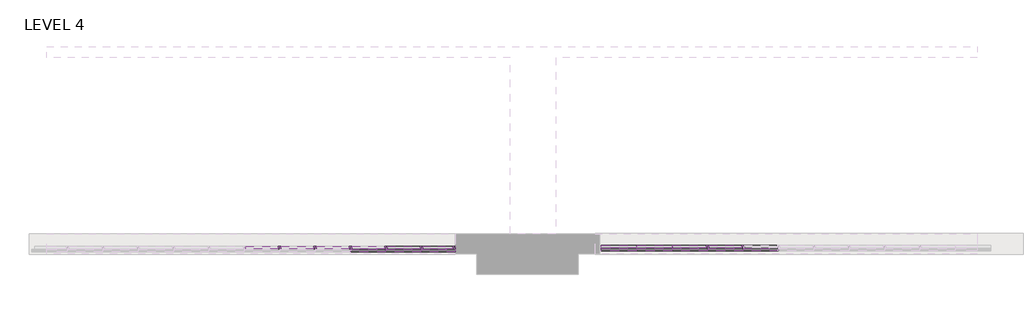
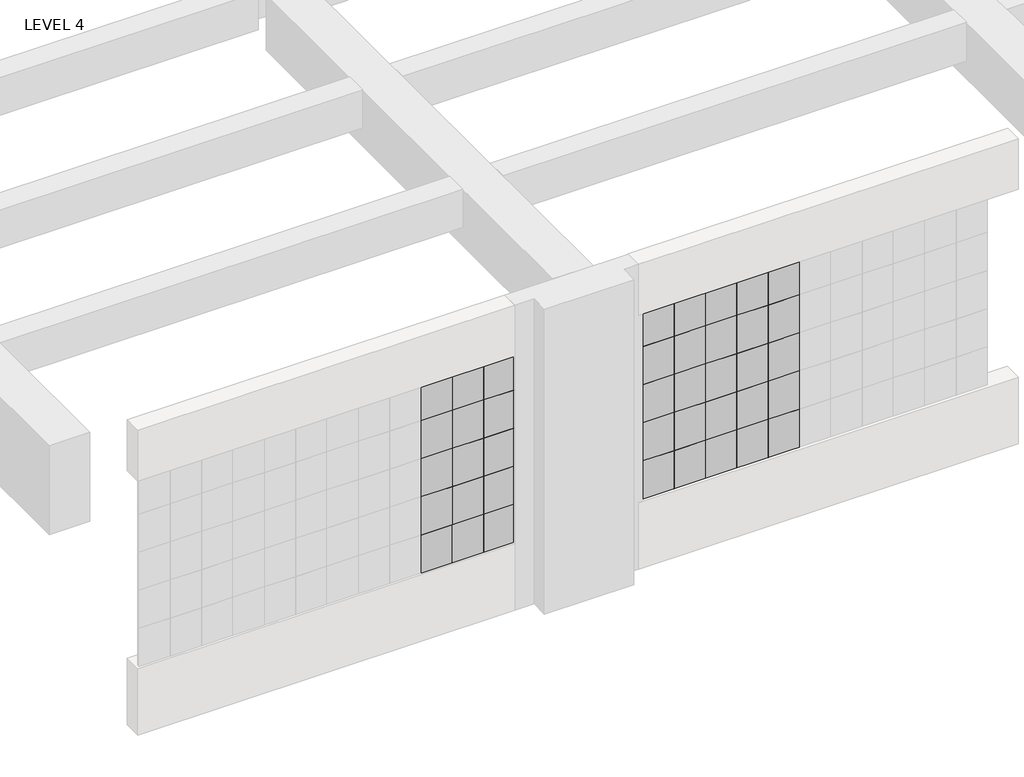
# One storey, part 3 of 26: 89 members, 40 plates.
"""IFC4 building model written with IfcOpenShell, lengths in millimetres."""

from ifc_helpers import new_model, si_unit, origin, place, context, project, spatial, transform, mapped, element, save
from components import member_038dcf1c, member_0e6c94ff, member_d9fec558, member_3d4b608b, member_3c10d71f, member_653bb31e, member_8861c038, member_2db4d105, member_643a3807, member_ec43e15b, member_0f6da5c5, member_6c57b699, member_8c9cbbb4, member_f92ba716, system_panel_glazed_ab35d819, system_panel_glazed_1edc1c27, system_panel_glazed_418eb6cd, system_panel_glazed_5e6f1a99

model = new_model("IFC4")

# Units and contexts
model_context = context("Model", 3, world=origin())
ifc_project = project(units=[si_unit("LENGTHUNIT", "METRE", prefix="MILLI")], contexts=[model_context])

# Site, building, storey
site = spatial("IfcSite", under=ifc_project)
building = spatial("IfcBuilding", under=site)
storey = spatial("IfcBuildingStorey", under=building, Name="LEVEL 4", Elevation=0.0)

# Members
placement = place(None, origin())
member_shape = member_038dcf1c(model_context)
element("IfcMember", 1, ObjectType="Circular Mullion : 1 1/4\" Square", at=placement, inside=storey, context=model_context, shape_type="MappedRepresentation", body=[
    mapped(member_shape, transform((-38095.2585473, 87287.1352667, 2171.7), x_axis=(1.0, 0.0, 0.0), y_axis=(0.0, -1.0, 0.0), z_axis=(0.0, 0.0, -1.0))),
])
element("IfcMember", 2, ObjectType="Circular Mullion : 1 1/4\" Square", at=placement, inside=storey, context=model_context, shape_type="MappedRepresentation", body=[
    mapped(member_shape, transform((-38095.2585473, 87287.1352667, 1714.5), x_axis=(1.0, 0.0, 0.0), y_axis=(0.0, -1.0, 0.0), z_axis=(0.0, 0.0, -1.0))),
])
element("IfcMember", 3, ObjectType="Circular Mullion : 1 1/4\" Square", at=placement, inside=storey, context=model_context, shape_type="MappedRepresentation", body=[
    mapped(member_shape, transform((-38095.2585473, 87287.1352667, 1257.3), x_axis=(1.0, 0.0, 0.0), y_axis=(0.0, -1.0, 0.0), z_axis=(0.0, 0.0, -1.0))),
])
element("IfcMember", 4, ObjectType="Circular Mullion : 1 1/4\" Square", at=placement, inside=storey, context=model_context, shape_type="MappedRepresentation", body=[
    mapped(member_shape, transform((-38095.2585473, 87287.1352667, 800.1), x_axis=(1.0, 0.0, 0.0), y_axis=(0.0, -1.0, 0.0), z_axis=(0.0, 0.0, -1.0))),
])
member_2_shape = member_0e6c94ff(model_context)
element("IfcMember", 5, ObjectType="Circular Mullion : 1 1/4\" Square", at=placement, inside=storey, context=model_context, shape_type="MappedRepresentation", body=[
    mapped(member_2_shape, transform((-38095.2585473, 87287.1352667, 2628.9), x_axis=(1.0, 0.0, 0.0), y_axis=(0.0, -1.0, 0.0), z_axis=(0.0, 0.0, -1.0))),
])
member_3_shape = member_d9fec558(model_context)
element("IfcMember", 6, ObjectType="Circular Mullion : 1 1/4\" Square", at=placement, inside=storey, context=model_context, shape_type="MappedRepresentation", body=[
    mapped(member_3_shape, transform((-39146.970947, 87287.1352667, 2628.9), x_axis=(1.0, 0.0, 0.0), y_axis=(0.0, -1.0, 0.0), z_axis=(0.0, 0.0, -1.0))),
])
element("IfcMember", 7, ObjectType="Circular Mullion : 1 1/4\" Square", at=placement, inside=storey, context=model_context, shape_type="MappedRepresentation", body=[
    mapped(member_3_shape, transform((-39502.570947, 87287.1352667, 2628.9), x_axis=(1.0, 0.0, 0.0), y_axis=(0.0, -1.0, 0.0), z_axis=(0.0, 0.0, -1.0))),
])
element("IfcMember", 8, ObjectType="Circular Mullion : 1 1/4\" Square", at=placement, inside=storey, context=model_context, shape_type="MappedRepresentation", body=[
    mapped(member_3_shape, transform((-39858.170947, 87287.1352667, 2628.9), x_axis=(1.0, 0.0, 0.0), y_axis=(0.0, -1.0, 0.0), z_axis=(0.0, 0.0, -1.0))),
])
element("IfcMember", 9, ObjectType="Circular Mullion : 1 1/4\" Square", at=placement, inside=storey, context=model_context, shape_type="MappedRepresentation", body=[
    mapped(member_3_shape, transform((-38435.770947, 87287.1352667, 2628.9), x_axis=(1.0, 0.0, 0.0), y_axis=(0.0, -1.0, 0.0), z_axis=(0.0, 0.0, -1.0))),
])
element("IfcMember", 10, ObjectType="Circular Mullion : 1 1/4\" Square", at=placement, inside=storey, context=model_context, shape_type="MappedRepresentation", body=[
    mapped(member_3_shape, transform((-38791.370947, 87287.1352667, 2628.9), x_axis=(1.0, 0.0, 0.0), y_axis=(0.0, -1.0, 0.0), z_axis=(0.0, 0.0, -1.0))),
])
member_4_shape = member_3d4b608b(model_context)
element("IfcMember", 11, ObjectType="Circular Mullion : 1 1/4\" Square", at=placement, inside=storey, context=model_context, shape_type="MappedRepresentation", body=[
    mapped(member_4_shape, transform((-39146.970947, 87287.1352667, 2171.7), x_axis=(1.0, 0.0, 0.0), y_axis=(0.0, -1.0, 0.0), z_axis=(0.0, 0.0, -1.0))),
])
element("IfcMember", 12, ObjectType="Circular Mullion : 1 1/4\" Square", at=placement, inside=storey, context=model_context, shape_type="MappedRepresentation", body=[
    mapped(member_4_shape, transform((-39146.970947, 87287.1352667, 1714.5), x_axis=(1.0, 0.0, 0.0), y_axis=(0.0, -1.0, 0.0), z_axis=(0.0, 0.0, -1.0))),
])
element("IfcMember", 13, ObjectType="Circular Mullion : 1 1/4\" Square", at=placement, inside=storey, context=model_context, shape_type="MappedRepresentation", body=[
    mapped(member_4_shape, transform((-39146.970947, 87287.1352667, 1257.3), x_axis=(1.0, 0.0, 0.0), y_axis=(0.0, -1.0, 0.0), z_axis=(0.0, 0.0, -1.0))),
])
element("IfcMember", 14, ObjectType="Circular Mullion : 1 1/4\" Square", at=placement, inside=storey, context=model_context, shape_type="MappedRepresentation", body=[
    mapped(member_4_shape, transform((-39502.570947, 87287.1352667, 2171.7), x_axis=(1.0, 0.0, 0.0), y_axis=(0.0, -1.0, 0.0), z_axis=(0.0, 0.0, -1.0))),
])
element("IfcMember", 15, ObjectType="Circular Mullion : 1 1/4\" Square", at=placement, inside=storey, context=model_context, shape_type="MappedRepresentation", body=[
    mapped(member_4_shape, transform((-39502.570947, 87287.1352667, 1714.5), x_axis=(1.0, 0.0, 0.0), y_axis=(0.0, -1.0, 0.0), z_axis=(0.0, 0.0, -1.0))),
])
element("IfcMember", 16, ObjectType="Circular Mullion : 1 1/4\" Square", at=placement, inside=storey, context=model_context, shape_type="MappedRepresentation", body=[
    mapped(member_4_shape, transform((-39502.570947, 87287.1352667, 1257.3), x_axis=(1.0, 0.0, 0.0), y_axis=(0.0, -1.0, 0.0), z_axis=(0.0, 0.0, -1.0))),
])
element("IfcMember", 17, ObjectType="Circular Mullion : 1 1/4\" Square", at=placement, inside=storey, context=model_context, shape_type="MappedRepresentation", body=[
    mapped(member_4_shape, transform((-39858.170947, 87287.1352667, 2171.7), x_axis=(1.0, 0.0, 0.0), y_axis=(0.0, -1.0, 0.0), z_axis=(0.0, 0.0, -1.0))),
])
element("IfcMember", 18, ObjectType="Circular Mullion : 1 1/4\" Square", at=placement, inside=storey, context=model_context, shape_type="MappedRepresentation", body=[
    mapped(member_4_shape, transform((-39858.170947, 87287.1352667, 1714.5), x_axis=(1.0, 0.0, 0.0), y_axis=(0.0, -1.0, 0.0), z_axis=(0.0, 0.0, -1.0))),
])
element("IfcMember", 19, ObjectType="Circular Mullion : 1 1/4\" Square", at=placement, inside=storey, context=model_context, shape_type="MappedRepresentation", body=[
    mapped(member_4_shape, transform((-39858.170947, 87287.1352667, 1257.3), x_axis=(1.0, 0.0, 0.0), y_axis=(0.0, -1.0, 0.0), z_axis=(0.0, 0.0, -1.0))),
])
element("IfcMember", 20, ObjectType="Circular Mullion : 1 1/4\" Square", at=placement, inside=storey, context=model_context, shape_type="MappedRepresentation", body=[
    mapped(member_4_shape, transform((-38435.770947, 87287.1352667, 2171.7), x_axis=(1.0, 0.0, 0.0), y_axis=(0.0, -1.0, 0.0), z_axis=(0.0, 0.0, -1.0))),
])
element("IfcMember", 21, ObjectType="Circular Mullion : 1 1/4\" Square", at=placement, inside=storey, context=model_context, shape_type="MappedRepresentation", body=[
    mapped(member_4_shape, transform((-38435.770947, 87287.1352667, 1714.5), x_axis=(1.0, 0.0, 0.0), y_axis=(0.0, -1.0, 0.0), z_axis=(0.0, 0.0, -1.0))),
])
element("IfcMember", 22, ObjectType="Circular Mullion : 1 1/4\" Square", at=placement, inside=storey, context=model_context, shape_type="MappedRepresentation", body=[
    mapped(member_4_shape, transform((-38435.770947, 87287.1352667, 1257.3), x_axis=(1.0, 0.0, 0.0), y_axis=(0.0, -1.0, 0.0), z_axis=(0.0, 0.0, -1.0))),
])
element("IfcMember", 23, ObjectType="Circular Mullion : 1 1/4\" Square", at=placement, inside=storey, context=model_context, shape_type="MappedRepresentation", body=[
    mapped(member_4_shape, transform((-38791.370947, 87287.1352667, 2171.7), x_axis=(1.0, 0.0, 0.0), y_axis=(0.0, -1.0, 0.0), z_axis=(0.0, 0.0, -1.0))),
])
element("IfcMember", 24, ObjectType="Circular Mullion : 1 1/4\" Square", at=placement, inside=storey, context=model_context, shape_type="MappedRepresentation", body=[
    mapped(member_4_shape, transform((-38791.370947, 87287.1352667, 1714.5), x_axis=(1.0, 0.0, 0.0), y_axis=(0.0, -1.0, 0.0), z_axis=(0.0, 0.0, -1.0))),
])
element("IfcMember", 25, ObjectType="Circular Mullion : 1 1/4\" Square", at=placement, inside=storey, context=model_context, shape_type="MappedRepresentation", body=[
    mapped(member_4_shape, transform((-38791.370947, 87287.1352667, 1257.3), x_axis=(1.0, 0.0, 0.0), y_axis=(0.0, -1.0, 0.0), z_axis=(0.0, 0.0, -1.0))),
])
element("IfcMember", 26, ObjectType="Circular Mullion : 1 1/4\" Square", at=placement, inside=storey, context=model_context, shape_type="MappedRepresentation", body=[
    mapped(member_4_shape, transform((-35203.620947, 87297.4286167, 2171.7), x_axis=(1.0, 0.0, 0.0), y_axis=(0.0, -1.0, 0.0), z_axis=(0.0, 0.0, -1.0))),
])
element("IfcMember", 27, ObjectType="Circular Mullion : 1 1/4\" Square", at=placement, inside=storey, context=model_context, shape_type="MappedRepresentation", body=[
    mapped(member_4_shape, transform((-35203.620947, 87297.4286167, 1714.5), x_axis=(1.0, 0.0, 0.0), y_axis=(0.0, -1.0, 0.0), z_axis=(0.0, 0.0, -1.0))),
])
element("IfcMember", 28, ObjectType="Circular Mullion : 1 1/4\" Square", at=placement, inside=storey, context=model_context, shape_type="MappedRepresentation", body=[
    mapped(member_4_shape, transform((-35203.620947, 87297.4286167, 1257.3), x_axis=(1.0, 0.0, 0.0), y_axis=(0.0, -1.0, 0.0), z_axis=(0.0, 0.0, -1.0))),
])
element("IfcMember", 29, ObjectType="Circular Mullion : 1 1/4\" Square", at=placement, inside=storey, context=model_context, shape_type="MappedRepresentation", body=[
    mapped(member_4_shape, transform((-35559.220947, 87297.4286167, 2171.7), x_axis=(1.0, 0.0, 0.0), y_axis=(0.0, -1.0, 0.0), z_axis=(0.0, 0.0, -1.0))),
])
element("IfcMember", 30, ObjectType="Circular Mullion : 1 1/4\" Square", at=placement, inside=storey, context=model_context, shape_type="MappedRepresentation", body=[
    mapped(member_4_shape, transform((-35559.220947, 87297.4286167, 1714.5), x_axis=(1.0, 0.0, 0.0), y_axis=(0.0, -1.0, 0.0), z_axis=(0.0, 0.0, -1.0))),
])
element("IfcMember", 31, ObjectType="Circular Mullion : 1 1/4\" Square", at=placement, inside=storey, context=model_context, shape_type="MappedRepresentation", body=[
    mapped(member_4_shape, transform((-35559.220947, 87297.4286167, 1257.3), x_axis=(1.0, 0.0, 0.0), y_axis=(0.0, -1.0, 0.0), z_axis=(0.0, 0.0, -1.0))),
])
element("IfcMember", 32, ObjectType="Circular Mullion : 1 1/4\" Square", at=placement, inside=storey, context=model_context, shape_type="MappedRepresentation", body=[
    mapped(member_4_shape, transform((-39146.970947, 87287.1352667, 800.1), x_axis=(1.0, 0.0, 0.0), y_axis=(0.0, -1.0, 0.0), z_axis=(0.0, 0.0, -1.0))),
])
element("IfcMember", 33, ObjectType="Circular Mullion : 1 1/4\" Square", at=placement, inside=storey, context=model_context, shape_type="MappedRepresentation", body=[
    mapped(member_4_shape, transform((-39502.570947, 87287.1352667, 800.1), x_axis=(1.0, 0.0, 0.0), y_axis=(0.0, -1.0, 0.0), z_axis=(0.0, 0.0, -1.0))),
])
element("IfcMember", 34, ObjectType="Circular Mullion : 1 1/4\" Square", at=placement, inside=storey, context=model_context, shape_type="MappedRepresentation", body=[
    mapped(member_4_shape, transform((-39858.170947, 87287.1352667, 800.1), x_axis=(1.0, 0.0, 0.0), y_axis=(0.0, -1.0, 0.0), z_axis=(0.0, 0.0, -1.0))),
])
element("IfcMember", 35, ObjectType="Circular Mullion : 1 1/4\" Square", at=placement, inside=storey, context=model_context, shape_type="MappedRepresentation", body=[
    mapped(member_4_shape, transform((-38435.770947, 87287.1352667, 800.1), x_axis=(1.0, 0.0, 0.0), y_axis=(0.0, -1.0, 0.0), z_axis=(0.0, 0.0, -1.0))),
])
element("IfcMember", 36, ObjectType="Circular Mullion : 1 1/4\" Square", at=placement, inside=storey, context=model_context, shape_type="MappedRepresentation", body=[
    mapped(member_4_shape, transform((-38791.370947, 87287.1352667, 800.1), x_axis=(1.0, 0.0, 0.0), y_axis=(0.0, -1.0, 0.0), z_axis=(0.0, 0.0, -1.0))),
])
element("IfcMember", 37, ObjectType="Circular Mullion : 1 1/4\" Square", at=placement, inside=storey, context=model_context, shape_type="MappedRepresentation", body=[
    mapped(member_4_shape, transform((-35203.620947, 87297.4286167, 800.1), x_axis=(1.0, 0.0, 0.0), y_axis=(0.0, -1.0, 0.0), z_axis=(0.0, 0.0, -1.0))),
])
element("IfcMember", 38, ObjectType="Circular Mullion : 1 1/4\" Square", at=placement, inside=storey, context=model_context, shape_type="MappedRepresentation", body=[
    mapped(member_4_shape, transform((-35559.220947, 87297.4286167, 800.1), x_axis=(1.0, 0.0, 0.0), y_axis=(0.0, -1.0, 0.0), z_axis=(0.0, 0.0, -1.0))),
])
member_5_shape = member_3c10d71f(model_context)
element("IfcMember", 39, ObjectType="Circular Mullion : 1 1/4\" Square", at=placement, inside=storey, context=model_context, shape_type="MappedRepresentation", body=[
    mapped(member_5_shape, transform((-38448.470947, 87287.1352667, 3060.7), x_axis=(0.0, 0.0, 1.0), y_axis=(0.0, -1.0, 0.0), z_axis=(1.0, 0.0, 0.0))),
])
element("IfcMember", 40, ObjectType="Circular Mullion : 1 1/4\" Square", at=placement, inside=storey, context=model_context, shape_type="MappedRepresentation", body=[
    mapped(member_5_shape, transform((-38804.070947, 87287.1352667, 3060.7), x_axis=(0.0, 0.0, 1.0), y_axis=(0.0, -1.0, 0.0), z_axis=(1.0, 0.0, 0.0))),
])
element("IfcMember", 41, ObjectType="Circular Mullion : 1 1/4\" Square", at=placement, inside=storey, context=model_context, shape_type="MappedRepresentation", body=[
    mapped(member_5_shape, transform((-38778.670947, 87287.1352667, 800.1), x_axis=(0.0, 0.0, -1.0), y_axis=(0.0, -1.0, 0.0), z_axis=(-1.0, 0.0, 0.0))),
])
element("IfcMember", 42, ObjectType="Circular Mullion : 1 1/4\" Square", at=placement, inside=storey, context=model_context, shape_type="MappedRepresentation", body=[
    mapped(member_5_shape, transform((-35546.520947, 87297.4286167, 800.1), x_axis=(0.0, 0.0, -1.0), y_axis=(0.0, -1.0, 0.0), z_axis=(-1.0, 0.0, 0.0))),
])
element("IfcMember", 43, ObjectType="Circular Mullion : 1 1/4\" Square", at=placement, inside=storey, context=model_context, shape_type="MappedRepresentation", body=[
    mapped(member_5_shape, transform((-35190.920947, 87297.4286167, 800.1), x_axis=(0.0, 0.0, -1.0), y_axis=(0.0, -1.0, 0.0), z_axis=(-1.0, 0.0, 0.0))),
])
member_6_shape = member_653bb31e(model_context)
element("IfcMember", 44, ObjectType="Circular Mullion : 1 1/4\" Square", at=placement, inside=storey, context=model_context, shape_type="MappedRepresentation", body=[
    mapped(member_6_shape, transform((-39515.270947, 87287.1352667, 2171.7), x_axis=(0.0, 0.0, 1.0), y_axis=(0.0, -1.0, 0.0), z_axis=(1.0, 0.0, 0.0))),
])
element("IfcMember", 45, ObjectType="Circular Mullion : 1 1/4\" Square", at=placement, inside=storey, context=model_context, shape_type="MappedRepresentation", body=[
    mapped(member_6_shape, transform((-39159.670947, 87287.1352667, 2171.7), x_axis=(0.0, 0.0, 1.0), y_axis=(0.0, -1.0, 0.0), z_axis=(1.0, 0.0, 0.0))),
])
element("IfcMember", 46, ObjectType="Circular Mullion : 1 1/4\" Square", at=placement, inside=storey, context=model_context, shape_type="MappedRepresentation", body=[
    mapped(member_6_shape, transform((-38804.070947, 87287.1352667, 2171.7), x_axis=(0.0, 0.0, 1.0), y_axis=(0.0, -1.0, 0.0), z_axis=(1.0, 0.0, 0.0))),
])
element("IfcMember", 47, ObjectType="Circular Mullion : 1 1/4\" Square", at=placement, inside=storey, context=model_context, shape_type="MappedRepresentation", body=[
    mapped(member_6_shape, transform((-38448.470947, 87287.1352667, 2171.7), x_axis=(0.0, 0.0, 1.0), y_axis=(0.0, -1.0, 0.0), z_axis=(1.0, 0.0, 0.0))),
])
element("IfcMember", 48, ObjectType="Circular Mullion : 1 1/4\" Square", at=placement, inside=storey, context=model_context, shape_type="MappedRepresentation", body=[
    mapped(member_6_shape, transform((-39870.870947, 87287.1352667, 1714.5), x_axis=(0.0, 0.0, 1.0), y_axis=(0.0, -1.0, 0.0), z_axis=(1.0, 0.0, 0.0))),
])
element("IfcMember", 49, ObjectType="Circular Mullion : 1 1/4\" Square", at=placement, inside=storey, context=model_context, shape_type="MappedRepresentation", body=[
    mapped(member_6_shape, transform((-39515.270947, 87287.1352667, 1714.5), x_axis=(0.0, 0.0, 1.0), y_axis=(0.0, -1.0, 0.0), z_axis=(1.0, 0.0, 0.0))),
])
element("IfcMember", 50, ObjectType="Circular Mullion : 1 1/4\" Square", at=placement, inside=storey, context=model_context, shape_type="MappedRepresentation", body=[
    mapped(member_6_shape, transform((-39159.670947, 87287.1352667, 1714.5), x_axis=(0.0, 0.0, 1.0), y_axis=(0.0, -1.0, 0.0), z_axis=(1.0, 0.0, 0.0))),
])
element("IfcMember", 51, ObjectType="Circular Mullion : 1 1/4\" Square", at=placement, inside=storey, context=model_context, shape_type="MappedRepresentation", body=[
    mapped(member_6_shape, transform((-38804.070947, 87287.1352667, 1714.5), x_axis=(0.0, 0.0, 1.0), y_axis=(0.0, -1.0, 0.0), z_axis=(1.0, 0.0, 0.0))),
])
element("IfcMember", 52, ObjectType="Circular Mullion : 1 1/4\" Square", at=placement, inside=storey, context=model_context, shape_type="MappedRepresentation", body=[
    mapped(member_6_shape, transform((-38448.470947, 87287.1352667, 1714.5), x_axis=(0.0, 0.0, 1.0), y_axis=(0.0, -1.0, 0.0), z_axis=(1.0, 0.0, 0.0))),
])
element("IfcMember", 53, ObjectType="Circular Mullion : 1 1/4\" Square", at=placement, inside=storey, context=model_context, shape_type="MappedRepresentation", body=[
    mapped(member_6_shape, transform((-39870.870947, 87287.1352667, 1257.3), x_axis=(0.0, 0.0, 1.0), y_axis=(0.0, -1.0, 0.0), z_axis=(1.0, 0.0, 0.0))),
])
element("IfcMember", 54, ObjectType="Circular Mullion : 1 1/4\" Square", at=placement, inside=storey, context=model_context, shape_type="MappedRepresentation", body=[
    mapped(member_6_shape, transform((-39515.270947, 87287.1352667, 1257.3), x_axis=(0.0, 0.0, 1.0), y_axis=(0.0, -1.0, 0.0), z_axis=(1.0, 0.0, 0.0))),
])
element("IfcMember", 55, ObjectType="Circular Mullion : 1 1/4\" Square", at=placement, inside=storey, context=model_context, shape_type="MappedRepresentation", body=[
    mapped(member_6_shape, transform((-39159.670947, 87287.1352667, 1257.3), x_axis=(0.0, 0.0, 1.0), y_axis=(0.0, -1.0, 0.0), z_axis=(1.0, 0.0, 0.0))),
])
element("IfcMember", 56, ObjectType="Circular Mullion : 1 1/4\" Square", at=placement, inside=storey, context=model_context, shape_type="MappedRepresentation", body=[
    mapped(member_6_shape, transform((-38804.070947, 87287.1352667, 1257.3), x_axis=(0.0, 0.0, 1.0), y_axis=(0.0, -1.0, 0.0), z_axis=(1.0, 0.0, 0.0))),
])
element("IfcMember", 57, ObjectType="Circular Mullion : 1 1/4\" Square", at=placement, inside=storey, context=model_context, shape_type="MappedRepresentation", body=[
    mapped(member_6_shape, transform((-38448.470947, 87287.1352667, 1257.3), x_axis=(0.0, 0.0, 1.0), y_axis=(0.0, -1.0, 0.0), z_axis=(1.0, 0.0, 0.0))),
])
element("IfcMember", 58, ObjectType="Circular Mullion : 1 1/4\" Square", at=placement, inside=storey, context=model_context, shape_type="MappedRepresentation", body=[
    mapped(member_6_shape, transform((-39870.870947, 87287.1352667, 2628.9), x_axis=(0.0, 0.0, 1.0), y_axis=(0.0, -1.0, 0.0), z_axis=(1.0, 0.0, 0.0))),
])
element("IfcMember", 59, ObjectType="Circular Mullion : 1 1/4\" Square", at=placement, inside=storey, context=model_context, shape_type="MappedRepresentation", body=[
    mapped(member_6_shape, transform((-39515.270947, 87287.1352667, 2628.9), x_axis=(0.0, 0.0, 1.0), y_axis=(0.0, -1.0, 0.0), z_axis=(1.0, 0.0, 0.0))),
])
element("IfcMember", 60, ObjectType="Circular Mullion : 1 1/4\" Square", at=placement, inside=storey, context=model_context, shape_type="MappedRepresentation", body=[
    mapped(member_6_shape, transform((-39159.670947, 87287.1352667, 2628.9), x_axis=(0.0, 0.0, 1.0), y_axis=(0.0, -1.0, 0.0), z_axis=(1.0, 0.0, 0.0))),
])
element("IfcMember", 61, ObjectType="Circular Mullion : 1 1/4\" Square", at=placement, inside=storey, context=model_context, shape_type="MappedRepresentation", body=[
    mapped(member_6_shape, transform((-38804.070947, 87287.1352667, 2628.9), x_axis=(0.0, 0.0, 1.0), y_axis=(0.0, -1.0, 0.0), z_axis=(1.0, 0.0, 0.0))),
])
element("IfcMember", 62, ObjectType="Circular Mullion : 1 1/4\" Square", at=placement, inside=storey, context=model_context, shape_type="MappedRepresentation", body=[
    mapped(member_6_shape, transform((-38448.470947, 87287.1352667, 2628.9), x_axis=(0.0, 0.0, 1.0), y_axis=(0.0, -1.0, 0.0), z_axis=(1.0, 0.0, 0.0))),
])
element("IfcMember", 63, ObjectType="Circular Mullion : 1 1/4\" Square", at=placement, inside=storey, context=model_context, shape_type="MappedRepresentation", body=[
    mapped(member_6_shape, transform((-35216.320947, 87297.4286167, 2628.9), x_axis=(0.0, 0.0, 1.0), y_axis=(0.0, -1.0, 0.0), z_axis=(1.0, 0.0, 0.0))),
])
element("IfcMember", 64, ObjectType="Circular Mullion : 1 1/4\" Square", at=placement, inside=storey, context=model_context, shape_type="MappedRepresentation", body=[
    mapped(member_6_shape, transform((-35216.320947, 87297.4286167, 2171.7), x_axis=(0.0, 0.0, 1.0), y_axis=(0.0, -1.0, 0.0), z_axis=(1.0, 0.0, 0.0))),
])
element("IfcMember", 65, ObjectType="Circular Mullion : 1 1/4\" Square", at=placement, inside=storey, context=model_context, shape_type="MappedRepresentation", body=[
    mapped(member_6_shape, transform((-35216.320947, 87297.4286167, 1714.5), x_axis=(0.0, 0.0, 1.0), y_axis=(0.0, -1.0, 0.0), z_axis=(1.0, 0.0, 0.0))),
])
element("IfcMember", 66, ObjectType="Circular Mullion : 1 1/4\" Square", at=placement, inside=storey, context=model_context, shape_type="MappedRepresentation", body=[
    mapped(member_6_shape, transform((-35216.320947, 87297.4286167, 1257.3), x_axis=(0.0, 0.0, 1.0), y_axis=(0.0, -1.0, 0.0), z_axis=(1.0, 0.0, 0.0))),
])
member_7_shape = member_8861c038(model_context)
element("IfcMember", 67, ObjectType="Circular Mullion : 1 1/4\" Square", at=placement, inside=storey, context=model_context, shape_type="MappedRepresentation", body=[
    mapped(member_7_shape, transform((-38120.6585473, 87287.1352667, 3060.7), x_axis=(0.0, 0.0, 1.0), y_axis=(0.0, -1.0, 0.0), z_axis=(1.0, 0.0, 0.0))),
])
element("IfcMember", 68, ObjectType="Circular Mullion : 1 1/4\" Square", at=placement, inside=storey, context=model_context, shape_type="MappedRepresentation", body=[
    mapped(member_7_shape, transform((-38423.070947, 87287.1352667, 800.1), x_axis=(0.0, 0.0, -1.0), y_axis=(0.0, -1.0, 0.0), z_axis=(-1.0, 0.0, 0.0))),
])
member_8_shape = member_2db4d105(model_context)
element("IfcMember", 69, ObjectType="Circular Mullion : 1 1/4\" Square", at=placement, inside=storey, context=model_context, shape_type="MappedRepresentation", body=[
    mapped(member_8_shape, transform((-38120.6585473, 87287.1352667, 2171.7), x_axis=(0.0, 0.0, 1.0), y_axis=(0.0, -1.0, 0.0), z_axis=(1.0, 0.0, 0.0))),
])
element("IfcMember", 70, ObjectType="Circular Mullion : 1 1/4\" Square", at=placement, inside=storey, context=model_context, shape_type="MappedRepresentation", body=[
    mapped(member_8_shape, transform((-38120.6585473, 87287.1352667, 1714.5), x_axis=(0.0, 0.0, 1.0), y_axis=(0.0, -1.0, 0.0), z_axis=(1.0, 0.0, 0.0))),
])
element("IfcMember", 71, ObjectType="Circular Mullion : 1 1/4\" Square", at=placement, inside=storey, context=model_context, shape_type="MappedRepresentation", body=[
    mapped(member_8_shape, transform((-38120.6585473, 87287.1352667, 1257.3), x_axis=(0.0, 0.0, 1.0), y_axis=(0.0, -1.0, 0.0), z_axis=(1.0, 0.0, 0.0))),
])
element("IfcMember", 72, ObjectType="Circular Mullion : 1 1/4\" Square", at=placement, inside=storey, context=model_context, shape_type="MappedRepresentation", body=[
    mapped(member_8_shape, transform((-38120.6585473, 87287.1352667, 2628.9), x_axis=(0.0, 0.0, 1.0), y_axis=(0.0, -1.0, 0.0), z_axis=(1.0, 0.0, 0.0))),
])
element("IfcMember", 73, ObjectType="Circular Mullion : 1 1/4\" Square", at=placement, inside=storey, context=model_context, shape_type="MappedRepresentation", body=[
    mapped(member_3_shape, transform((-35203.620947, 87297.4286167, 2628.9), x_axis=(1.0, 0.0, 0.0), y_axis=(0.0, -1.0, 0.0), z_axis=(0.0, 0.0, -1.0))),
])
element("IfcMember", 74, ObjectType="Circular Mullion : 1 1/4\" Square", at=placement, inside=storey, context=model_context, shape_type="MappedRepresentation", body=[
    mapped(member_3_shape, transform((-35559.220947, 87297.4286167, 2628.9), x_axis=(1.0, 0.0, 0.0), y_axis=(0.0, -1.0, 0.0), z_axis=(0.0, 0.0, -1.0))),
])
member_9_shape = member_643a3807(model_context)
element("IfcMember", 75, ObjectType="Circular Mullion : 1 1/4\" Square", at=placement, inside=storey, context=model_context, shape_type="MappedRepresentation", body=[
    mapped(member_9_shape, transform((-35914.820947, 87297.4286167, 2628.9), x_axis=(0.0, 0.0, 1.0), y_axis=(0.0, -1.0, 0.0), z_axis=(1.0, 0.0, 0.0))),
])
element("IfcMember", 76, ObjectType="Circular Mullion : 1 1/4\" Square", at=placement, inside=storey, context=model_context, shape_type="MappedRepresentation", body=[
    mapped(member_9_shape, transform((-35914.820947, 87297.4286167, 2171.7), x_axis=(0.0, 0.0, 1.0), y_axis=(0.0, -1.0, 0.0), z_axis=(1.0, 0.0, 0.0))),
])
element("IfcMember", 77, ObjectType="Circular Mullion : 1 1/4\" Square", at=placement, inside=storey, context=model_context, shape_type="MappedRepresentation", body=[
    mapped(member_9_shape, transform((-35914.820947, 87297.4286167, 1714.5), x_axis=(0.0, 0.0, 1.0), y_axis=(0.0, -1.0, 0.0), z_axis=(1.0, 0.0, 0.0))),
])
element("IfcMember", 78, ObjectType="Circular Mullion : 1 1/4\" Square", at=placement, inside=storey, context=model_context, shape_type="MappedRepresentation", body=[
    mapped(member_9_shape, transform((-35914.820947, 87297.4286167, 1257.3), x_axis=(0.0, 0.0, 1.0), y_axis=(0.0, -1.0, 0.0), z_axis=(1.0, 0.0, 0.0))),
])
member_10_shape = member_ec43e15b(model_context)
element("IfcMember", 79, ObjectType="Circular Mullion : 1 1/4\" Square", at=placement, inside=storey, context=model_context, shape_type="MappedRepresentation", body=[
    mapped(member_10_shape, transform((-36270.420947, 87297.4286167, 800.1), x_axis=(0.0, 0.0, -1.0), y_axis=(0.0, -1.0, 0.0), z_axis=(-1.0, 0.0, 0.0))),
])
member_11_shape = member_0f6da5c5(model_context)
element("IfcMember", 80, ObjectType="Circular Mullion : 1 1/4\" Square", at=placement, inside=storey, context=model_context, shape_type="MappedRepresentation", body=[
    mapped(member_11_shape, transform((-35914.820947, 87297.4286167, 800.1), x_axis=(0.0, 0.0, -1.0), y_axis=(0.0, -1.0, 0.0), z_axis=(-1.0, 0.0, 0.0))),
])
member_12_shape = member_6c57b699(model_context)
element("IfcMember", 81, ObjectType="Circular Mullion : 1 1/4\" Square", at=placement, inside=storey, context=model_context, shape_type="MappedRepresentation", body=[
    mapped(member_12_shape, transform((-35571.920947, 87297.4286167, 2628.9), x_axis=(0.0, 0.0, 1.0), y_axis=(0.0, -1.0, 0.0), z_axis=(1.0, 0.0, 0.0))),
])
element("IfcMember", 82, ObjectType="Circular Mullion : 1 1/4\" Square", at=placement, inside=storey, context=model_context, shape_type="MappedRepresentation", body=[
    mapped(member_12_shape, transform((-35571.920947, 87297.4286167, 2171.7), x_axis=(0.0, 0.0, 1.0), y_axis=(0.0, -1.0, 0.0), z_axis=(1.0, 0.0, 0.0))),
])
element("IfcMember", 83, ObjectType="Circular Mullion : 1 1/4\" Square", at=placement, inside=storey, context=model_context, shape_type="MappedRepresentation", body=[
    mapped(member_12_shape, transform((-35571.920947, 87297.4286167, 1714.5), x_axis=(0.0, 0.0, 1.0), y_axis=(0.0, -1.0, 0.0), z_axis=(1.0, 0.0, 0.0))),
])
element("IfcMember", 84, ObjectType="Circular Mullion : 1 1/4\" Square", at=placement, inside=storey, context=model_context, shape_type="MappedRepresentation", body=[
    mapped(member_12_shape, transform((-35571.920947, 87297.4286167, 1257.3), x_axis=(0.0, 0.0, 1.0), y_axis=(0.0, -1.0, 0.0), z_axis=(1.0, 0.0, 0.0))),
])
member_13_shape = member_8c9cbbb4(model_context)
element("IfcMember", 85, ObjectType="Circular Mullion : 1 1/4\" Square", at=placement, inside=storey, context=model_context, shape_type="MappedRepresentation", body=[
    mapped(member_13_shape, transform((-36626.0209473, 87297.4286167, 800.1), x_axis=(0.0, 0.0, -1.0), y_axis=(0.0, -1.0, 0.0), z_axis=(-1.0, 0.0, 0.0))),
])
member_14_shape = member_f92ba716(model_context)
element("IfcMember", 86, ObjectType="Circular Mullion : 1 1/4\" Square", at=placement, inside=storey, context=model_context, shape_type="MappedRepresentation", body=[
    mapped(member_14_shape, transform((-36270.420947, 87297.4286167, 2628.9), x_axis=(0.0, 0.0, 1.0), y_axis=(0.0, -1.0, 0.0), z_axis=(1.0, 0.0, 0.0))),
])
element("IfcMember", 87, ObjectType="Circular Mullion : 1 1/4\" Square", at=placement, inside=storey, context=model_context, shape_type="MappedRepresentation", body=[
    mapped(member_14_shape, transform((-36270.420947, 87297.4286167, 2171.7), x_axis=(0.0, 0.0, 1.0), y_axis=(0.0, -1.0, 0.0), z_axis=(1.0, 0.0, 0.0))),
])
element("IfcMember", 88, ObjectType="Circular Mullion : 1 1/4\" Square", at=placement, inside=storey, context=model_context, shape_type="MappedRepresentation", body=[
    mapped(member_14_shape, transform((-36270.420947, 87297.4286167, 1714.5), x_axis=(0.0, 0.0, 1.0), y_axis=(0.0, -1.0, 0.0), z_axis=(1.0, 0.0, 0.0))),
])
element("IfcMember", 89, ObjectType="Circular Mullion : 1 1/4\" Square", at=placement, inside=storey, context=model_context, shape_type="MappedRepresentation", body=[
    mapped(member_14_shape, transform((-36270.420947, 87297.4286167, 1257.3), x_axis=(0.0, 0.0, 1.0), y_axis=(0.0, -1.0, 0.0), z_axis=(1.0, 0.0, 0.0))),
])

# Plates
system_panel_glazed_shape = system_panel_glazed_ab35d819(model_context)
element("IfcPlate", 90, ObjectType="System Panel : Glazed", at=placement, inside=storey, context=model_context, shape_type="MappedRepresentation", body=[
    mapped(system_panel_glazed_shape, transform((-38613.570947, 87287.1352667, 800.1), x_axis=(1.0, 0.0, 0.0), y_axis=(0.0, 1.0, 0.0), z_axis=(0.0, 0.0, 1.0))),
])
element("IfcPlate", 91, ObjectType="System Panel : Glazed", at=placement, inside=storey, context=model_context, shape_type="MappedRepresentation", body=[
    mapped(system_panel_glazed_shape, transform((-36448.2209471, 87297.4286167, 800.1), x_axis=(1.0, 0.0, 0.0), y_axis=(0.0, 1.0, 0.0), z_axis=(0.0, 0.0, 1.0))),
])
element("IfcPlate", 92, ObjectType="System Panel : Glazed", at=placement, inside=storey, context=model_context, shape_type="MappedRepresentation", body=[
    mapped(system_panel_glazed_shape, transform((-38969.170947, 87287.1352667, 800.1), x_axis=(1.0, 0.0, 0.0), y_axis=(0.0, 1.0, 0.0), z_axis=(0.0, 0.0, 1.0))),
])
element("IfcPlate", 93, ObjectType="System Panel : Glazed", at=placement, inside=storey, context=model_context, shape_type="MappedRepresentation", body=[
    mapped(system_panel_glazed_shape, transform((-38969.170947, 87287.1352667, 1257.3), x_axis=(1.0, 0.0, 0.0), y_axis=(0.0, 1.0, 0.0), z_axis=(0.0, 0.0, 1.0))),
])
element("IfcPlate", 94, ObjectType="System Panel : Glazed", at=placement, inside=storey, context=model_context, shape_type="MappedRepresentation", body=[
    mapped(system_panel_glazed_shape, transform((-38613.570947, 87287.1352667, 1257.3), x_axis=(1.0, 0.0, 0.0), y_axis=(0.0, 1.0, 0.0), z_axis=(0.0, 0.0, 1.0))),
])
element("IfcPlate", 95, ObjectType="System Panel : Glazed", at=placement, inside=storey, context=model_context, shape_type="MappedRepresentation", body=[
    mapped(system_panel_glazed_shape, transform((-38969.170947, 87287.1352667, 1714.5), x_axis=(1.0, 0.0, 0.0), y_axis=(0.0, 1.0, 0.0), z_axis=(0.0, 0.0, 1.0))),
])
element("IfcPlate", 96, ObjectType="System Panel : Glazed", at=placement, inside=storey, context=model_context, shape_type="MappedRepresentation", body=[
    mapped(system_panel_glazed_shape, transform((-38613.570947, 87287.1352667, 1714.5), x_axis=(1.0, 0.0, 0.0), y_axis=(0.0, 1.0, 0.0), z_axis=(0.0, 0.0, 1.0))),
])
element("IfcPlate", 97, ObjectType="System Panel : Glazed", at=placement, inside=storey, context=model_context, shape_type="MappedRepresentation", body=[
    mapped(system_panel_glazed_shape, transform((-38969.170947, 87287.1352667, 2171.7), x_axis=(1.0, 0.0, 0.0), y_axis=(0.0, 1.0, 0.0), z_axis=(0.0, 0.0, 1.0))),
])
element("IfcPlate", 98, ObjectType="System Panel : Glazed", at=placement, inside=storey, context=model_context, shape_type="MappedRepresentation", body=[
    mapped(system_panel_glazed_shape, transform((-38613.570947, 87287.1352667, 2171.7), x_axis=(1.0, 0.0, 0.0), y_axis=(0.0, 1.0, 0.0), z_axis=(0.0, 0.0, 1.0))),
])
element("IfcPlate", 99, ObjectType="System Panel : Glazed", at=placement, inside=storey, context=model_context, shape_type="MappedRepresentation", body=[
    mapped(system_panel_glazed_shape, transform((-35025.820947, 87297.4286167, 800.1), x_axis=(1.0, 0.0, 0.0), y_axis=(0.0, 1.0, 0.0), z_axis=(0.0, 0.0, 1.0))),
])
element("IfcPlate", 100, ObjectType="System Panel : Glazed", at=placement, inside=storey, context=model_context, shape_type="MappedRepresentation", body=[
    mapped(system_panel_glazed_shape, transform((-35381.420947, 87297.4286167, 800.1), x_axis=(1.0, 0.0, 0.0), y_axis=(0.0, 1.0, 0.0), z_axis=(0.0, 0.0, 1.0))),
])
element("IfcPlate", 101, ObjectType="System Panel : Glazed", at=placement, inside=storey, context=model_context, shape_type="MappedRepresentation", body=[
    mapped(system_panel_glazed_shape, transform((-36448.2209471, 87297.4286167, 1257.3), x_axis=(1.0, 0.0, 0.0), y_axis=(0.0, 1.0, 0.0), z_axis=(0.0, 0.0, 1.0))),
])
element("IfcPlate", 102, ObjectType="System Panel : Glazed", at=placement, inside=storey, context=model_context, shape_type="MappedRepresentation", body=[
    mapped(system_panel_glazed_shape, transform((-35025.820947, 87297.4286167, 1257.3), x_axis=(1.0, 0.0, 0.0), y_axis=(0.0, 1.0, 0.0), z_axis=(0.0, 0.0, 1.0))),
])
element("IfcPlate", 103, ObjectType="System Panel : Glazed", at=placement, inside=storey, context=model_context, shape_type="MappedRepresentation", body=[
    mapped(system_panel_glazed_shape, transform((-35381.420947, 87297.4286167, 1257.3), x_axis=(1.0, 0.0, 0.0), y_axis=(0.0, 1.0, 0.0), z_axis=(0.0, 0.0, 1.0))),
])
element("IfcPlate", 104, ObjectType="System Panel : Glazed", at=placement, inside=storey, context=model_context, shape_type="MappedRepresentation", body=[
    mapped(system_panel_glazed_shape, transform((-36448.2209471, 87297.4286167, 1714.5), x_axis=(1.0, 0.0, 0.0), y_axis=(0.0, 1.0, 0.0), z_axis=(0.0, 0.0, 1.0))),
])
element("IfcPlate", 105, ObjectType="System Panel : Glazed", at=placement, inside=storey, context=model_context, shape_type="MappedRepresentation", body=[
    mapped(system_panel_glazed_shape, transform((-35025.820947, 87297.4286167, 1714.5), x_axis=(1.0, 0.0, 0.0), y_axis=(0.0, 1.0, 0.0), z_axis=(0.0, 0.0, 1.0))),
])
element("IfcPlate", 106, ObjectType="System Panel : Glazed", at=placement, inside=storey, context=model_context, shape_type="MappedRepresentation", body=[
    mapped(system_panel_glazed_shape, transform((-35381.420947, 87297.4286167, 1714.5), x_axis=(1.0, 0.0, 0.0), y_axis=(0.0, 1.0, 0.0), z_axis=(0.0, 0.0, 1.0))),
])
element("IfcPlate", 107, ObjectType="System Panel : Glazed", at=placement, inside=storey, context=model_context, shape_type="MappedRepresentation", body=[
    mapped(system_panel_glazed_shape, transform((-36448.2209471, 87297.4286167, 2171.7), x_axis=(1.0, 0.0, 0.0), y_axis=(0.0, 1.0, 0.0), z_axis=(0.0, 0.0, 1.0))),
])
element("IfcPlate", 108, ObjectType="System Panel : Glazed", at=placement, inside=storey, context=model_context, shape_type="MappedRepresentation", body=[
    mapped(system_panel_glazed_shape, transform((-35025.820947, 87297.4286167, 2171.7), x_axis=(1.0, 0.0, 0.0), y_axis=(0.0, 1.0, 0.0), z_axis=(0.0, 0.0, 1.0))),
])
element("IfcPlate", 109, ObjectType="System Panel : Glazed", at=placement, inside=storey, context=model_context, shape_type="MappedRepresentation", body=[
    mapped(system_panel_glazed_shape, transform((-35381.420947, 87297.4286167, 2171.7), x_axis=(1.0, 0.0, 0.0), y_axis=(0.0, 1.0, 0.0), z_axis=(0.0, 0.0, 1.0))),
])
element("IfcPlate", 110, ObjectType="System Panel : Glazed", at=placement, inside=storey, context=model_context, shape_type="MappedRepresentation", body=[
    mapped(system_panel_glazed_shape, transform((-36092.620947, 87297.4286167, 800.1), x_axis=(1.0, 0.0, 0.0), y_axis=(0.0, 1.0, 0.0), z_axis=(0.0, 0.0, 1.0))),
])
element("IfcPlate", 111, ObjectType="System Panel : Glazed", at=placement, inside=storey, context=model_context, shape_type="MappedRepresentation", body=[
    mapped(system_panel_glazed_shape, transform((-36092.620947, 87297.4286167, 1257.3), x_axis=(1.0, 0.0, 0.0), y_axis=(0.0, 1.0, 0.0), z_axis=(0.0, 0.0, 1.0))),
])
element("IfcPlate", 112, ObjectType="System Panel : Glazed", at=placement, inside=storey, context=model_context, shape_type="MappedRepresentation", body=[
    mapped(system_panel_glazed_shape, transform((-36092.620947, 87297.4286167, 1714.5), x_axis=(1.0, 0.0, 0.0), y_axis=(0.0, 1.0, 0.0), z_axis=(0.0, 0.0, 1.0))),
])
element("IfcPlate", 113, ObjectType="System Panel : Glazed", at=placement, inside=storey, context=model_context, shape_type="MappedRepresentation", body=[
    mapped(system_panel_glazed_shape, transform((-36092.620947, 87297.4286167, 2171.7), x_axis=(1.0, 0.0, 0.0), y_axis=(0.0, 1.0, 0.0), z_axis=(0.0, 0.0, 1.0))),
])
element("IfcPlate", 114, ObjectType="System Panel : Glazed", at=placement, inside=storey, context=model_context, shape_type="MappedRepresentation", body=[
    mapped(system_panel_glazed_shape, transform((-35737.020947, 87297.4286167, 800.1), x_axis=(1.0, 0.0, 0.0), y_axis=(0.0, 1.0, 0.0), z_axis=(0.0, 0.0, 1.0))),
])
element("IfcPlate", 115, ObjectType="System Panel : Glazed", at=placement, inside=storey, context=model_context, shape_type="MappedRepresentation", body=[
    mapped(system_panel_glazed_shape, transform((-35737.020947, 87297.4286167, 1257.3), x_axis=(1.0, 0.0, 0.0), y_axis=(0.0, 1.0, 0.0), z_axis=(0.0, 0.0, 1.0))),
])
element("IfcPlate", 116, ObjectType="System Panel : Glazed", at=placement, inside=storey, context=model_context, shape_type="MappedRepresentation", body=[
    mapped(system_panel_glazed_shape, transform((-35737.020947, 87297.4286167, 1714.5), x_axis=(1.0, 0.0, 0.0), y_axis=(0.0, 1.0, 0.0), z_axis=(0.0, 0.0, 1.0))),
])
element("IfcPlate", 117, ObjectType="System Panel : Glazed", at=placement, inside=storey, context=model_context, shape_type="MappedRepresentation", body=[
    mapped(system_panel_glazed_shape, transform((-35737.020947, 87297.4286167, 2171.7), x_axis=(1.0, 0.0, 0.0), y_axis=(0.0, 1.0, 0.0), z_axis=(0.0, 0.0, 1.0))),
])
system_panel_glazed_2_shape = system_panel_glazed_1edc1c27(model_context)
element("IfcPlate", 118, ObjectType="System Panel : Glazed", at=placement, inside=storey, context=model_context, shape_type="MappedRepresentation", body=[
    mapped(system_panel_glazed_2_shape, transform((-38265.5147471, 87287.1352667, 800.1), x_axis=(1.0, 0.0, 0.0), y_axis=(0.0, 1.0, 0.0), z_axis=(0.0, 0.0, 1.0))),
])
element("IfcPlate", 119, ObjectType="System Panel : Glazed", at=placement, inside=storey, context=model_context, shape_type="MappedRepresentation", body=[
    mapped(system_panel_glazed_2_shape, transform((-38265.5147471, 87287.1352667, 1257.3), x_axis=(1.0, 0.0, 0.0), y_axis=(0.0, 1.0, 0.0), z_axis=(0.0, 0.0, 1.0))),
])
element("IfcPlate", 120, ObjectType="System Panel : Glazed", at=placement, inside=storey, context=model_context, shape_type="MappedRepresentation", body=[
    mapped(system_panel_glazed_2_shape, transform((-38265.5147471, 87287.1352667, 1714.5), x_axis=(1.0, 0.0, 0.0), y_axis=(0.0, 1.0, 0.0), z_axis=(0.0, 0.0, 1.0))),
])
element("IfcPlate", 121, ObjectType="System Panel : Glazed", at=placement, inside=storey, context=model_context, shape_type="MappedRepresentation", body=[
    mapped(system_panel_glazed_2_shape, transform((-38265.5147471, 87287.1352667, 2171.7), x_axis=(1.0, 0.0, 0.0), y_axis=(0.0, 1.0, 0.0), z_axis=(0.0, 0.0, 1.0))),
])
system_panel_glazed_3_shape = system_panel_glazed_418eb6cd(model_context)
element("IfcPlate", 122, ObjectType="System Panel : Glazed", at=placement, inside=storey, context=model_context, shape_type="MappedRepresentation", body=[
    mapped(system_panel_glazed_3_shape, transform((-38969.170947, 87287.1352667, 2628.9), x_axis=(1.0, 0.0, 0.0), y_axis=(0.0, 1.0, 0.0), z_axis=(0.0, 0.0, 1.0))),
])
element("IfcPlate", 123, ObjectType="System Panel : Glazed", at=placement, inside=storey, context=model_context, shape_type="MappedRepresentation", body=[
    mapped(system_panel_glazed_3_shape, transform((-38613.570947, 87287.1352667, 2628.9), x_axis=(1.0, 0.0, 0.0), y_axis=(0.0, 1.0, 0.0), z_axis=(0.0, 0.0, 1.0))),
])
element("IfcPlate", 124, ObjectType="System Panel : Glazed", at=placement, inside=storey, context=model_context, shape_type="MappedRepresentation", body=[
    mapped(system_panel_glazed_3_shape, transform((-36448.2209471, 87297.4286167, 2628.9), x_axis=(1.0, 0.0, 0.0), y_axis=(0.0, 1.0, 0.0), z_axis=(0.0, 0.0, 1.0))),
])
element("IfcPlate", 125, ObjectType="System Panel : Glazed", at=placement, inside=storey, context=model_context, shape_type="MappedRepresentation", body=[
    mapped(system_panel_glazed_3_shape, transform((-35025.820947, 87297.4286167, 2628.9), x_axis=(1.0, 0.0, 0.0), y_axis=(0.0, 1.0, 0.0), z_axis=(0.0, 0.0, 1.0))),
])
element("IfcPlate", 126, ObjectType="System Panel : Glazed", at=placement, inside=storey, context=model_context, shape_type="MappedRepresentation", body=[
    mapped(system_panel_glazed_3_shape, transform((-35381.420947, 87297.4286167, 2628.9), x_axis=(1.0, 0.0, 0.0), y_axis=(0.0, 1.0, 0.0), z_axis=(0.0, 0.0, 1.0))),
])
element("IfcPlate", 127, ObjectType="System Panel : Glazed", at=placement, inside=storey, context=model_context, shape_type="MappedRepresentation", body=[
    mapped(system_panel_glazed_3_shape, transform((-36092.620947, 87297.4286167, 2628.9), x_axis=(1.0, 0.0, 0.0), y_axis=(0.0, 1.0, 0.0), z_axis=(0.0, 0.0, 1.0))),
])
element("IfcPlate", 128, ObjectType="System Panel : Glazed", at=placement, inside=storey, context=model_context, shape_type="MappedRepresentation", body=[
    mapped(system_panel_glazed_3_shape, transform((-35737.020947, 87297.4286167, 2628.9), x_axis=(1.0, 0.0, 0.0), y_axis=(0.0, 1.0, 0.0), z_axis=(0.0, 0.0, 1.0))),
])
system_panel_glazed_4_shape = system_panel_glazed_5e6f1a99(model_context)
element("IfcPlate", 129, ObjectType="System Panel : Glazed", at=placement, inside=storey, context=model_context, shape_type="MappedRepresentation", body=[
    mapped(system_panel_glazed_4_shape, transform((-38265.5147471, 87287.1352667, 2628.9), x_axis=(1.0, 0.0, 0.0), y_axis=(0.0, 1.0, 0.0), z_axis=(0.0, 0.0, 1.0))),
])

save(model, "model.ifc")
